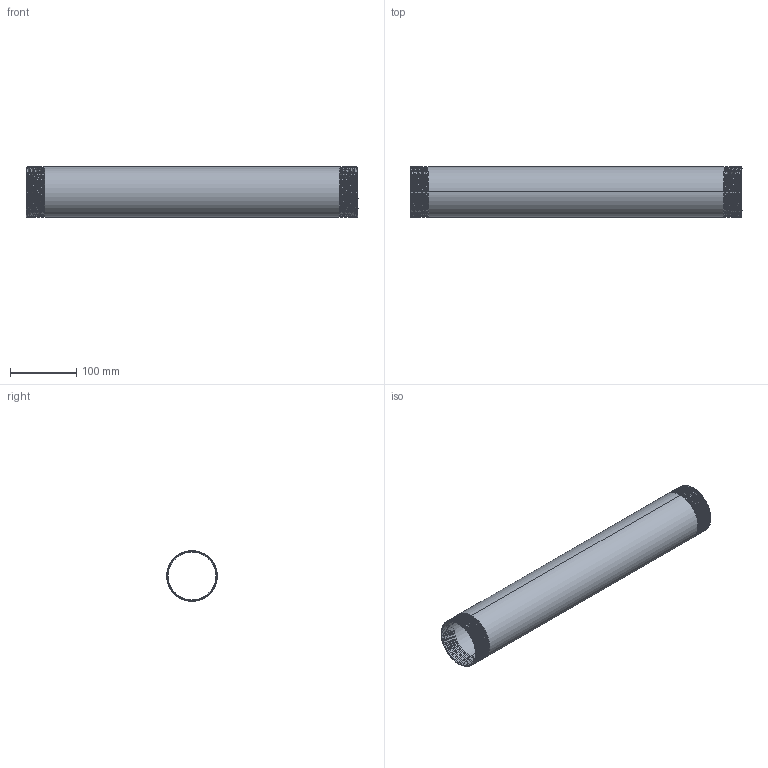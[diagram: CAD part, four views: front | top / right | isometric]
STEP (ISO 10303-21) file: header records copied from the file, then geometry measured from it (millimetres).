
FILE_DESCRIPTION (( 'STEP AP203' ), '1' );
FILE_NAME ('3D_R210_2 1-2x500_17191545.STEP', '2024-08-16T14:44:33', ( '' ), ( '' ), 'SwSTEP 2.0', 'SolidWorks 2024', '' );
FILE_SCHEMA (( 'CONFIG_CONTROL_DESIGN' ));
Length unit declared in the file: millimetre
Products named in the file (1): 3D_R210_2 1-2x500_17191545
Bounding box: 500 x 76.08 x 76.1 mm (x, y, z)
Volume: 224428.5 mm3; surface area: 240669.8 mm2
Topology: 1 solids, 1 shells, 72 faces, 204 edges, 134 vertices
Faces by surface type: cone 58, bspline 6, cylinder 4, plane 4
Entity records: 14195 total; most frequent: CARTESIAN_POINT 12523, ORIENTED_EDGE 408, DIRECTION 220, EDGE_CURVE 204, VERTEX_POINT 134, B_SPLINE_CURVE_WITH_KNOTS 120, AXIS2_PLACEMENT_3D 77, EDGE_LOOP 74
